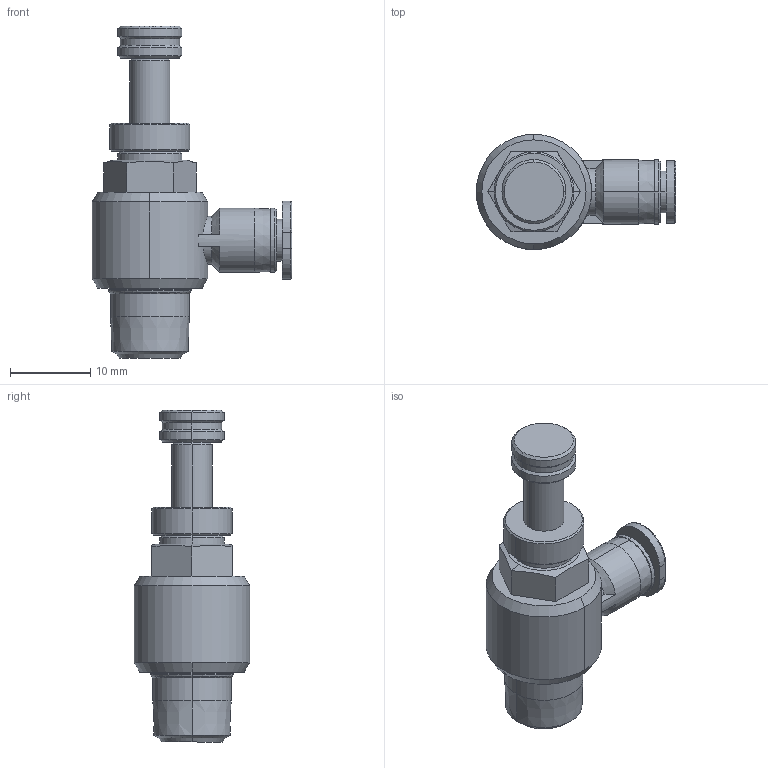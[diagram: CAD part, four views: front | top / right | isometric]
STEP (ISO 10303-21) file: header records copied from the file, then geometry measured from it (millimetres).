
FILE_DESCRIPTION (( 'STEP AP214' ), '1' );
FILE_NAME ('AJSC4-01.STEP', '2019-12-06T02:46:48', ( '微软用户' ), ( '微软中国' ), 'SwSTEP 2.0', 'SolidWorks 2016', '' );
FILE_SCHEMA (( 'AUTOMOTIVE_DESIGN' ));
Length unit declared in the file: millimetre
Products named in the file (1): AJSC4-01
Bounding box: 24.9 x 14.4 x 41.45 mm (x, y, z)
Volume: 3941 mm3; surface area: 2211.6 mm2
Topology: 1 solids, 1 shells, 107 faces, 235 edges, 142 vertices
Faces by surface type: cone 41, cylinder 36, plane 26, bspline 4
Entity records: 3085 total; most frequent: CARTESIAN_POINT 681, DIRECTION 530, ORIENTED_EDGE 470, EDGE_CURVE 235, AXIS2_PLACEMENT_3D 222, VERTEX_POINT 142, EDGE_LOOP 119, CIRCLE 118
